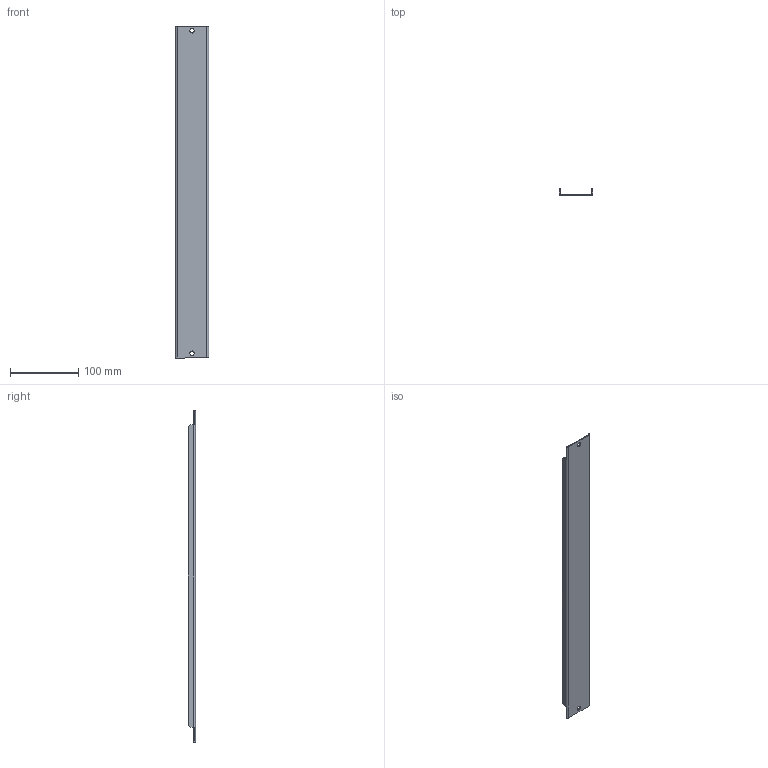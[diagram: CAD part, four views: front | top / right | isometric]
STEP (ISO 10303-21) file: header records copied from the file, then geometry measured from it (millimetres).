
FILE_DESCRIPTION (( 'STEP AP203' ), '1' );
FILE_NAME ('MBP0506R5_V1.step', '2013-01-15T16:06:13', ( '' ), ( '' ), 'SwSTEP 2.0', 'SolidWorks 2011', '' );
FILE_SCHEMA (( 'CONFIG_CONTROL_DESIGN' ));
Length unit declared in the file: millimetre
Products named in the file (1): MBP0506R5_V1
Bounding box: 49 x 10.3 x 485 mm (x, y, z)
Volume: 45855.3 mm3; surface area: 62840.1 mm2
Topology: 1 solids, 1 shells, 38 faces, 92 edges, 56 vertices
Faces by surface type: plane 30, cylinder 8
Entity records: 1177 total; most frequent: DIRECTION 194, CARTESIAN_POINT 187, ORIENTED_EDGE 184, EDGE_CURVE 92, VECTOR 68, LINE 68, AXIS2_PLACEMENT_3D 63, VERTEX_POINT 56
